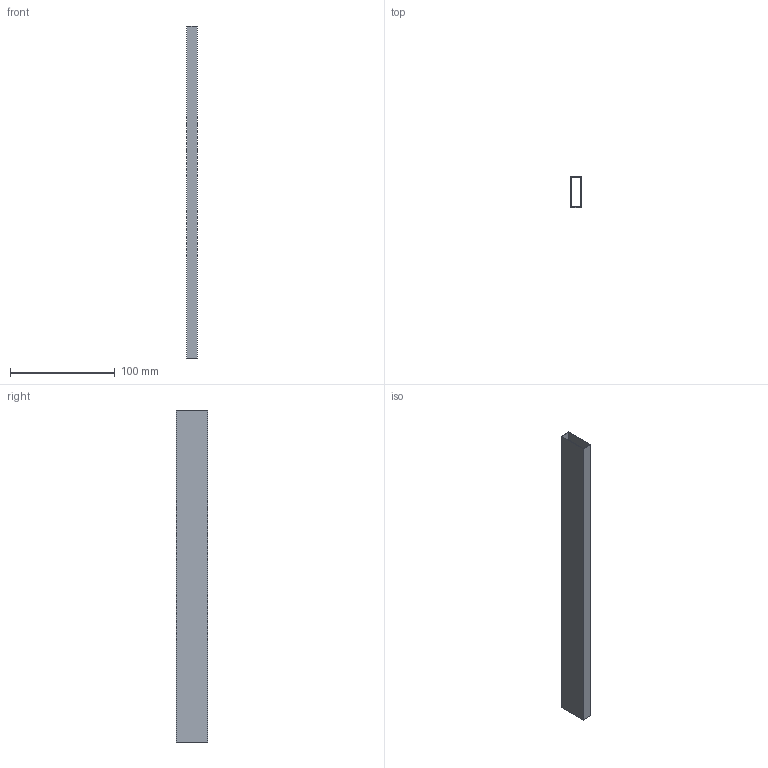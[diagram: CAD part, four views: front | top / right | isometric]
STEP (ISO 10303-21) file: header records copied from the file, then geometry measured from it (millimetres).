
FILE_DESCRIPTION (( 'STEP AP214' ), '1' );
FILE_NAME ('_DWD XP Rechteckreling NL350.step', '2010-07-14T13:27:51', ( 'grass' ), ( '' ), 'SwSTEP 2.0', 'SolidWorks 2010', '' );
FILE_SCHEMA (( 'AUTOMOTIVE_DESIGN' ));
Length unit declared in the file: millimetre
Products named in the file (1): _DWD XP Rechteckreling NL350
Bounding box: 10.5 x 30 x 317.1 mm (x, y, z)
Volume: 14954.4 mm3; surface area: 49942.4 mm2
Topology: 1 solids, 1 shells, 10 faces, 24 edges, 16 vertices
Faces by surface type: plane 10
Entity records: 326 total; most frequent: CARTESIAN_POINT 51, ORIENTED_EDGE 48, DIRECTION 46, EDGE_CURVE 24, LINE 24, VECTOR 24, VERTEX_POINT 16, EDGE_LOOP 12
